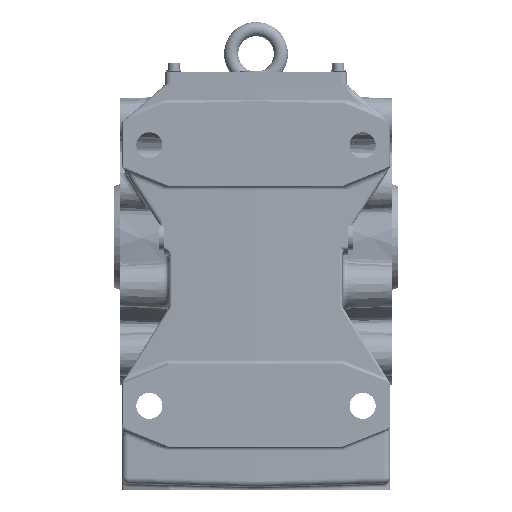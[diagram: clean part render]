
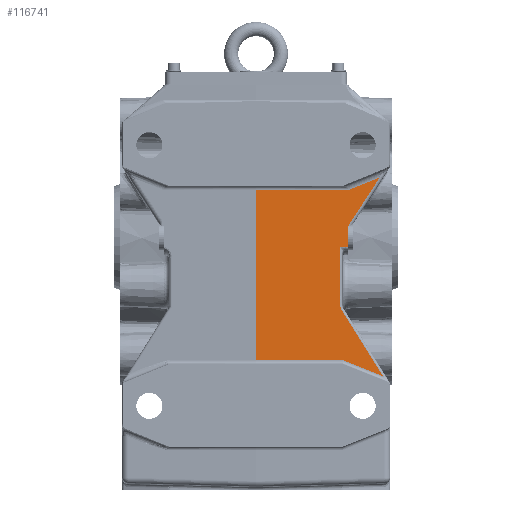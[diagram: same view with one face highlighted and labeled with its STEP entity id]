
A CAD part, left-side view. The second image highlights one B-rep face of the part: STEP entity #116741.
In plain terms, the highlighted planar face has unit normal (-1, -0.026, 0).
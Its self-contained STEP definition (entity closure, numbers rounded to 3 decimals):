
#56313=CARTESIAN_POINT('',(-128.064,-70.565,-46.049));
#56314=VERTEX_POINT('',#56313);
#56339=CARTESIAN_POINT('',(-128.064,-70.565,-8.048));
#56340=VERTEX_POINT('',#56339);
#56350=CARTESIAN_POINT('',(-128.064,-70.565,-8.048));
#56351=DIRECTION('',(0.0,0.0,-1.0));
#56352=VECTOR('',#56351,38.001);
#56353=LINE('',#56350,#56352);
#56354=EDGE_CURVE('',#56340,#56314,#56353,.T.);
#56396=CARTESIAN_POINT('',(-127.177,-104.418,50.274));
#56397=VERTEX_POINT('',#56396);
#56405=CARTESIAN_POINT('',(-127.854,-78.565,10.465));
#56406=VERTEX_POINT('',#56405);
#56407=CARTESIAN_POINT('',(-127.177,-104.418,50.274));
#56408=DIRECTION('',(-0.014,0.545,-0.839));
#56409=VECTOR('',#56408,47.472);
#56410=LINE('',#56407,#56409);
#56411=EDGE_CURVE('',#56397,#56406,#56410,.T.);
#56752=CARTESIAN_POINT('',(-127.85,-78.733,40.));
#56753=VERTEX_POINT('',#56752);
#56767=CARTESIAN_POINT('',(-127.85,-78.733,40.));
#56768=DIRECTION('',(0.024,-0.928,0.371));
#56769=VECTOR('',#56768,27.672);
#56770=LINE('',#56767,#56769);
#56771=EDGE_CURVE('',#56753,#56397,#56770,.T.);
#62896=CARTESIAN_POINT('',(-129.912,0.,40.));
#62897=VERTEX_POINT('',#62896);
#62905=CARTESIAN_POINT('',(-129.912,0.,40.));
#62906=DIRECTION('',(0.026,-1.,0.));
#62907=VECTOR('',#62906,78.76);
#62908=LINE('',#62905,#62907);
#62909=EDGE_CURVE('',#62897,#56753,#62908,.T.);
#76738=CARTESIAN_POINT('',(-127.987,-73.499,-104.));
#76739=VERTEX_POINT('',#76738);
#76747=CARTESIAN_POINT('',(-129.912,0.,-104.));
#76748=VERTEX_POINT('',#76747);
#76749=CARTESIAN_POINT('',(-127.987,-73.499,-104.));
#76750=DIRECTION('',(-0.026,1.,0.));
#76751=VECTOR('',#76750,73.524);
#76752=LINE('',#76749,#76751);
#76753=EDGE_CURVE('',#76739,#76748,#76752,.T.);
#76912=CARTESIAN_POINT('',(-127.103,-107.26,-117.504));
#76913=VERTEX_POINT('',#76912);
#76921=CARTESIAN_POINT('',(-127.103,-107.26,-117.504));
#76922=DIRECTION('',(-0.024,0.928,0.371));
#76923=VECTOR('',#76922,36.372);
#76924=LINE('',#76921,#76923);
#76925=EDGE_CURVE('',#76913,#76739,#76924,.T.);
#77109=CARTESIAN_POINT('',(-128.024,-72.087,-61.215));
#77110=VERTEX_POINT('',#77109);
#77118=CARTESIAN_POINT('',(-128.024,-72.087,-61.215));
#77119=DIRECTION('',(0.014,-0.53,-0.848));
#77120=VECTOR('',#77119,66.381);
#77121=LINE('',#77118,#77120);
#77122=EDGE_CURVE('',#77110,#76913,#77121,.T.);
#77195=CARTESIAN_POINT('',(-128.064,-70.565,-46.049));
#77196=CARTESIAN_POINT('',(-128.064,-70.566,-46.058));
#77197=CARTESIAN_POINT('',(-128.064,-70.566,-46.068));
#77198=CARTESIAN_POINT('',(-128.063,-70.588,-47.1));
#77199=CARTESIAN_POINT('',(-128.062,-70.632,-49.146));
#77200=CARTESIAN_POINT('',(-128.06,-70.692,-51.703));
#77201=CARTESIAN_POINT('',(-128.059,-70.752,-53.749));
#77202=CARTESIAN_POINT('',(-128.057,-70.805,-55.283));
#77203=CARTESIAN_POINT('',(-128.055,-70.883,-56.815));
#77204=CARTESIAN_POINT('',(-128.052,-71.009,-58.347));
#77205=CARTESIAN_POINT('',(-128.043,-71.364,-59.847));
#77206=CARTESIAN_POINT('',(-128.031,-71.815,-60.781));
#77207=CARTESIAN_POINT('',(-128.024,-72.087,-61.215));
#77208=B_SPLINE_CURVE_WITH_KNOTS('',3,(#77195,#77196,#77197,#77198,#77199,#77200,#77201,#77202,#77203,#77204,#77205,#77206,#77207),.UNSPECIFIED.,.F.,.U.,(4,2,1,1,1,1,1,1,1,4),(-0.003,0.0,0.307,0.614,0.767,0.921,1.074,1.228,1.381,1.535),.UNSPECIFIED.);
#77209=EDGE_CURVE('',#56314,#77110,#77208,.T.);
#116672=CARTESIAN_POINT('',(-127.854,-78.565,9.191));
#116673=VERTEX_POINT('',#116672);
#116686=CARTESIAN_POINT('',(-127.854,-78.565,10.465));
#116687=DIRECTION('',(0.0,0.0,-1.0));
#116688=VECTOR('',#116687,1.274);
#116689=LINE('',#116686,#116688);
#116690=EDGE_CURVE('',#56406,#116673,#116689,.T.);
#116695=CARTESIAN_POINT('',(-129.911,-0.025,-208.));
#116696=DIRECTION('',(-1.,-0.026,0.));
#116697=DIRECTION('',(0.0,0.0,1.0));
#116698=AXIS2_PLACEMENT_3D('',#116695,#116696,#116697);
#116699=PLANE('',#116698);
#116700=CARTESIAN_POINT('',(-127.869,-78.,-8.274));
#116701=VERTEX_POINT('',#116700);
#116702=CARTESIAN_POINT('',(-127.869,-78.,9.172));
#116703=VERTEX_POINT('',#116702);
#116704=CARTESIAN_POINT('',(-127.869,-78.,-8.274));
#116705=DIRECTION('',(0.0,0.0,1.0));
#116706=VECTOR('',#116705,17.446);
#116707=LINE('',#116704,#116706);
#116708=EDGE_CURVE('',#116701,#116703,#116707,.T.);
#116709=ORIENTED_EDGE('',*,*,#116708,.T.);
#116710=CARTESIAN_POINT('',(-116.,-531.262,0.));
#116711=DIRECTION('',(1.,0.026,0.));
#116712=DIRECTION('',(-0.026,1.,0.));
#116713=AXIS2_PLACEMENT_3D('',#116710,#116711,#116712);
#116714=ELLIPSE('',#116713,573.023,15.);
#116715=EDGE_CURVE('',#116703,#116673,#116714,.T.);
#116716=ORIENTED_EDGE('',*,*,#116715,.T.);
#116717=ORIENTED_EDGE('',*,*,#116690,.F.);
#116718=ORIENTED_EDGE('',*,*,#56411,.F.);
#116719=ORIENTED_EDGE('',*,*,#56771,.F.);
#116720=ORIENTED_EDGE('',*,*,#62909,.F.);
#116721=CARTESIAN_POINT('',(-129.912,0.,40.));
#116722=DIRECTION('',(0.0,0.0,-1.0));
#116723=VECTOR('',#116722,144.0);
#116724=LINE('',#116721,#116723);
#116725=EDGE_CURVE('',#62897,#76748,#116724,.T.);
#116726=ORIENTED_EDGE('',*,*,#116725,.T.);
#116727=ORIENTED_EDGE('',*,*,#76753,.F.);
#116728=ORIENTED_EDGE('',*,*,#76925,.F.);
#116729=ORIENTED_EDGE('',*,*,#77122,.F.);
#116730=ORIENTED_EDGE('',*,*,#77209,.F.);
#116731=ORIENTED_EDGE('',*,*,#56354,.F.);
#116732=CARTESIAN_POINT('',(-118.499,-435.823,0.));
#116733=DIRECTION('',(1.,0.026,0.));
#116734=DIRECTION('',(-0.026,1.,0.));
#116735=AXIS2_PLACEMENT_3D('',#116732,#116733,#116734);
#116736=ELLIPSE('',#116735,477.519,12.5);
#116737=EDGE_CURVE('',#116701,#56340,#116736,.T.);
#116738=ORIENTED_EDGE('',*,*,#116737,.F.);
#116739=EDGE_LOOP('',(#116709,#116716,#116717,#116718,#116719,#116720,#116726,#116727,#116728,#116729,#116730,#116731,#116738));
#116740=FACE_OUTER_BOUND('',#116739,.T.);
#116741=ADVANCED_FACE('',(#116740),#116699,.T.);
